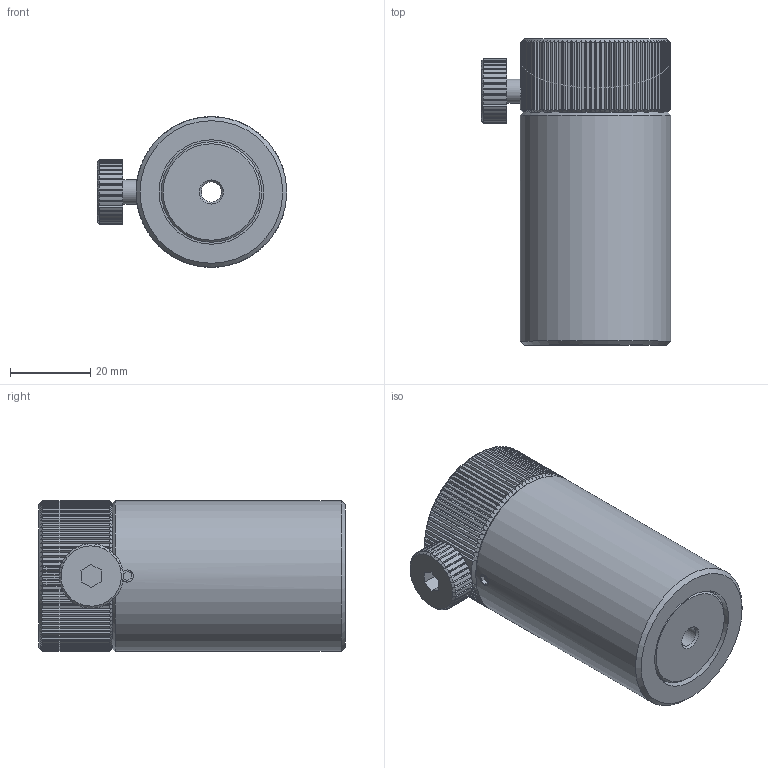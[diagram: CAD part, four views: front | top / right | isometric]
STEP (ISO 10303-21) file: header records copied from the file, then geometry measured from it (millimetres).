
FILE_DESCRIPTION (( 'STEP AP203' ), '1' );
FILE_NAME ('PHX-3.step', '2017-01-11T07:25:53', ( '¦K¬P' ), ( '' ), 'SwSTEP 2.0', 'SolidWorks 2012', '' );
FILE_SCHEMA (( 'CONFIG_CONTROL_DESIGN' ));
Length unit declared in the file: millimetre
Products named in the file (1): PHX-3
Bounding box: 47.15 x 76.2 x 37.5 mm (x, y, z)
Surface area: 17541.8 mm2 (no closed solid volume)
Topology: 0 solids, 4 shells, 433 faces, 1277 edges, 850 vertices
Faces by surface type: plane 287, cylinder 139, cone 7
Full cylindrical faces by diameter (mm): 3 x1, 5 x1, 6 x2, 25 x1, 26 x1, 37.5 x1
Entity records: 14988 total; most frequent: CARTESIAN_POINT 4106, ORIENTED_EDGE 2496, DIRECTION 1942, EDGE_CURVE 1258, VERTEX_POINT 846, AXIS2_PLACEMENT_3D 714, LINE 514, VECTOR 514
